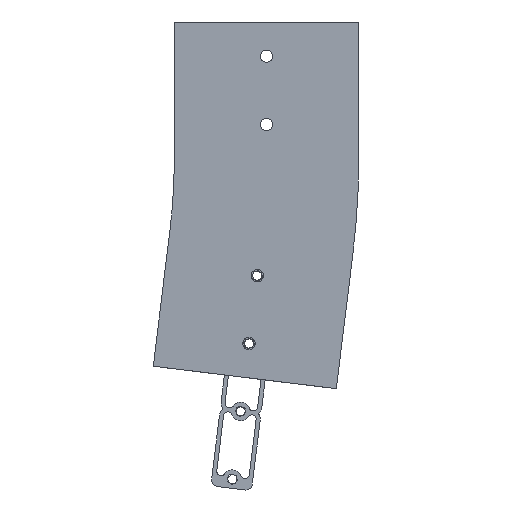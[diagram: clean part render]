
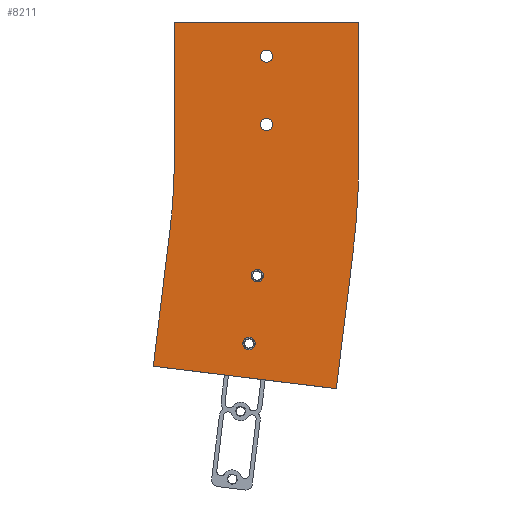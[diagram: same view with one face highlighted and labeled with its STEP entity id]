
A CAD part, left-side view. The second image highlights one B-rep face of the part: STEP entity #8211.
In plain terms, the highlighted planar face has unit normal (-1, 0, 0).
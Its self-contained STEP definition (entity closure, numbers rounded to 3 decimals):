
#187 = FACE_OUTER_BOUND ( 'NONE', #6491, .T. ) ;
#188 = FACE_BOUND ( 'NONE', #6607, .T. ) ;
#189 = FACE_BOUND ( 'NONE', #6599, .T. ) ;
#191 = FACE_BOUND ( 'NONE', #6598, .T. ) ;
#192 = FACE_BOUND ( 'NONE', #6590, .T. ) ;
#1198 = CARTESIAN_POINT ( 'NONE',  ( -59., 82.911, -251.963 ) ) ;
#1281 = CARTESIAN_POINT ( 'NONE',  ( -59., 67.5, 0. ) ) ;
#1320 = CARTESIAN_POINT ( 'NONE',  ( -59., 6.774, -190.248 ) ) ;
#1330 = CARTESIAN_POINT ( 'NONE',  ( -59., 70.724, -152.708 ) ) ;
#1348 = CARTESIAN_POINT ( 'NONE',  ( -59., 0., -20.5 ) ) ;
#1354 = CARTESIAN_POINT ( 'NONE',  ( -59., 0., -29.5 ) ) ;
#1359 = CARTESIAN_POINT ( 'NONE',  ( -59., 0., -79.5 ) ) ;
#1389 = CARTESIAN_POINT ( 'NONE',  ( -59., 67.5, -100. ) ) ;
#1430 = CARTESIAN_POINT ( 'NONE',  ( -59., 0., -70.5 ) ) ;
#1466 = CARTESIAN_POINT ( 'NONE',  ( -59., -51.083, -268.415 ) ) ;
#1491 = CARTESIAN_POINT ( 'NONE',  ( -59., -63.27, -169.161 ) ) ;
#1575 = CARTESIAN_POINT ( 'NONE',  ( -59., 12.867, -230.876 ) ) ;
#1609 = CARTESIAN_POINT ( 'NONE',  ( -59., 12.867, -239.876 ) ) ;
#1662 = CARTESIAN_POINT ( 'NONE',  ( -59., 6.774, -181.248 ) ) ;
#1667 = CARTESIAN_POINT ( 'NONE',  ( -59., -67.5, -100. ) ) ;
#1710 = CARTESIAN_POINT ( 'NONE',  ( -59., -67.5, 0. ) ) ;
#1962 = PLANE ( 'NONE',  #3939 ) ;
#1963 = CARTESIAN_POINT ( 'NONE',  ( -59., -67.5, -100. ) ) ;
#1964 = DIRECTION ( 'NONE',  ( -1., 0., 0. ) ) ;
#1965 = DIRECTION ( 'NONE',  ( 0., 0., 1. ) ) ;
#2558 = EDGE_CURVE ( 'NONE', #7795, #7746, #6772, .T. ) ;
#2574 = EDGE_CURVE ( 'NONE', #7799, #7803, #6766, .T. ) ;
#2613 = EDGE_CURVE ( 'NONE', #7823, #7305, #6760, .T. ) ;
#2623 = EDGE_CURVE ( 'NONE', #7320, #7330, #6754, .T. ) ;
#2675 = EDGE_CURVE ( 'NONE', #7303, #7293, #6724, .T. ) ;
#2680 = EDGE_CURVE ( 'NONE', #7303, #7355, #6719, .T. ) ;
#2683 = EDGE_CURVE ( 'NONE', #7355, #7362, #6717, .T. ) ;
#2696 = EDGE_CURVE ( 'NONE', #7386, #7404, #6707, .T. ) ;
#2704 = EDGE_CURVE ( 'NONE', #7404, #7451, #6703, .T. ) ;
#2817 = EDGE_CURVE ( 'NONE', #7386, #7419, #4910, .T. ) ;
#2823 = EDGE_CURVE ( 'NONE', #7330, #7320, #4907, .T. ) ;
#2829 = EDGE_CURVE ( 'NONE', #7305, #7823, #4905, .T. ) ;
#2836 = EDGE_CURVE ( 'NONE', #7803, #7799, #4903, .T. ) ;
#2838 = EDGE_CURVE ( 'NONE', #7746, #7795, #4901, .T. ) ;
#2840 = EDGE_CURVE ( 'NONE', #7419, #7293, #4902, .T. ) ;
#2843 = EDGE_CURVE ( 'NONE', #7451, #7362, #4899, .T. ) ;
#3600 = AXIS2_PLACEMENT_3D ( 'NONE', #4537, #4536, #4535 ) ;
#3602 = AXIS2_PLACEMENT_3D ( 'NONE', #4524, #4523, #4521 ) ;
#3604 = AXIS2_PLACEMENT_3D ( 'NONE', #4511, #4509, #4508 ) ;
#3606 = AXIS2_PLACEMENT_3D ( 'NONE', #4497, #4496, #4495 ) ;
#3609 = AXIS2_PLACEMENT_3D ( 'NONE', #4444, #4443, #4442 ) ;
#3611 = AXIS2_PLACEMENT_3D ( 'NONE', #4424, #4423, #4421 ) ;
#3618 = AXIS2_PLACEMENT_3D ( 'NONE', #4303, #4302, #4301 ) ;
#3620 = AXIS2_PLACEMENT_3D ( 'NONE', #4296, #4295, #4294 ) ;
#3622 = AXIS2_PLACEMENT_3D ( 'NONE', #4289, #4288, #4287 ) ;
#3623 = AXIS2_PLACEMENT_3D ( 'NONE', #4286, #4285, #4283 ) ;
#3939 = AXIS2_PLACEMENT_3D ( 'NONE', #1963, #1964, #1965 ) ;
#4277 = DIRECTION ( 'NONE',  ( 0., -0.993, -0.122 ) ) ;
#4278 = CARTESIAN_POINT ( 'NONE',  ( -59., -51.083, -268.415 ) ) ;
#4279 = DIRECTION ( 'NONE',  ( 0., -1., 0. ) ) ;
#4280 = CARTESIAN_POINT ( 'NONE',  ( -59., -67.5, 0. ) ) ;
#4283 = DIRECTION ( 'NONE',  ( 0., 0., 1. ) ) ;
#4285 = DIRECTION ( 'NONE',  ( -1., 0., 0. ) ) ;
#4286 = CARTESIAN_POINT ( 'NONE',  ( -59., 0., -75. ) ) ;
#4287 = DIRECTION ( 'NONE',  ( 0., 0., 1. ) ) ;
#4288 = DIRECTION ( 'NONE',  ( -1., 0., 0. ) ) ;
#4289 = CARTESIAN_POINT ( 'NONE',  ( -59., 0., -25. ) ) ;
#4294 = DIRECTION ( 'NONE',  ( 0., 0., 1. ) ) ;
#4295 = DIRECTION ( 'NONE',  ( -1., 0., 0. ) ) ;
#4296 = CARTESIAN_POINT ( 'NONE',  ( -59., 6.774, -185.748 ) ) ;
#4301 = DIRECTION ( 'NONE',  ( 0., 0., 1. ) ) ;
#4302 = DIRECTION ( 'NONE',  ( -1., 0., 0. ) ) ;
#4303 = CARTESIAN_POINT ( 'NONE',  ( -59., 12.867, -235.376 ) ) ;
#4309 = DIRECTION ( 'NONE',  ( 0., 0., 1. ) ) ;
#4310 = CARTESIAN_POINT ( 'NONE',  ( -59., 67.5, -100. ) ) ;
#4414 = DIRECTION ( 'NONE',  ( 0., 0.122, -0.993 ) ) ;
#4415 = CARTESIAN_POINT ( 'NONE',  ( -59., 70.724, -152.708 ) ) ;
#4421 = DIRECTION ( 'NONE',  ( 0., 0., -1. ) ) ;
#4423 = DIRECTION ( 'NONE',  ( 1., 0., 0. ) ) ;
#4424 = CARTESIAN_POINT ( 'NONE',  ( -59., 500., -100. ) ) ;
#4437 = DIRECTION ( 'NONE',  ( 0., 0.122, -0.993 ) ) ;
#4439 = CARTESIAN_POINT ( 'NONE',  ( -59., -63.27, -169.161 ) ) ;
#4442 = DIRECTION ( 'NONE',  ( 0., 0., -1. ) ) ;
#4443 = DIRECTION ( 'NONE',  ( 1., 0., 0. ) ) ;
#4444 = CARTESIAN_POINT ( 'NONE',  ( -59., 500., -100. ) ) ;
#4449 = DIRECTION ( 'NONE',  ( 0., 0., 1. ) ) ;
#4450 = CARTESIAN_POINT ( 'NONE',  ( -59., -67.5, -100. ) ) ;
#4495 = DIRECTION ( 'NONE',  ( 0., 0., 1. ) ) ;
#4496 = DIRECTION ( 'NONE',  ( -1., 0., 0. ) ) ;
#4497 = CARTESIAN_POINT ( 'NONE',  ( -59., 12.867, -235.376 ) ) ;
#4508 = DIRECTION ( 'NONE',  ( 0., 0., 1. ) ) ;
#4509 = DIRECTION ( 'NONE',  ( -1., 0., 0. ) ) ;
#4511 = CARTESIAN_POINT ( 'NONE',  ( -59., 6.774, -185.748 ) ) ;
#4521 = DIRECTION ( 'NONE',  ( 0., 0., 1. ) ) ;
#4523 = DIRECTION ( 'NONE',  ( -1., 0., 0. ) ) ;
#4524 = CARTESIAN_POINT ( 'NONE',  ( -59., 0., -25. ) ) ;
#4535 = DIRECTION ( 'NONE',  ( 0., 0., 1. ) ) ;
#4536 = DIRECTION ( 'NONE',  ( -1., 0., 0. ) ) ;
#4537 = CARTESIAN_POINT ( 'NONE',  ( -59., 0., -75. ) ) ;
#4898 = VECTOR ( 'NONE', #4277, 1000. ) ;
#4899 = LINE ( 'NONE', #4278, #4898 ) ;
#4900 = VECTOR ( 'NONE', #4279, 1000. ) ;
#4901 = CIRCLE ( 'NONE', #3623, 4.5 ) ;
#4902 = LINE ( 'NONE', #4280, #4900 ) ;
#4903 = CIRCLE ( 'NONE', #3622, 4.5 ) ;
#4905 = CIRCLE ( 'NONE', #3620, 4.5 ) ;
#4907 = CIRCLE ( 'NONE', #3618, 4.5 ) ;
#4909 = VECTOR ( 'NONE', #4309, 1000. ) ;
#4910 = LINE ( 'NONE', #4310, #4909 ) ;
#5999 = ORIENTED_EDGE ( 'NONE', *, *, #2838, .F. ) ;
#6000 = ORIENTED_EDGE ( 'NONE', *, *, #2558, .F. ) ;
#6001 = ORIENTED_EDGE ( 'NONE', *, *, #2836, .F. ) ;
#6003 = ORIENTED_EDGE ( 'NONE', *, *, #2574, .F. ) ;
#6004 = ORIENTED_EDGE ( 'NONE', *, *, #2829, .F. ) ;
#6005 = ORIENTED_EDGE ( 'NONE', *, *, #2613, .F. ) ;
#6006 = ORIENTED_EDGE ( 'NONE', *, *, #2823, .F. ) ;
#6007 = ORIENTED_EDGE ( 'NONE', *, *, #2623, .F. ) ;
#6008 = ORIENTED_EDGE ( 'NONE', *, *, #2840, .F. ) ;
#6009 = ORIENTED_EDGE ( 'NONE', *, *, #2817, .F. ) ;
#6010 = ORIENTED_EDGE ( 'NONE', *, *, #2696, .T. ) ;
#6011 = ORIENTED_EDGE ( 'NONE', *, *, #2704, .T. ) ;
#6012 = ORIENTED_EDGE ( 'NONE', *, *, #2843, .T. ) ;
#6013 = ORIENTED_EDGE ( 'NONE', *, *, #2683, .F. ) ;
#6014 = ORIENTED_EDGE ( 'NONE', *, *, #2680, .F. ) ;
#6015 = ORIENTED_EDGE ( 'NONE', *, *, #2675, .T. ) ;
#6491 = EDGE_LOOP ( 'NONE', ( #6008, #6009, #6010, #6011, #6012, #6013, #6014, #6015 ) ) ;
#6590 = EDGE_LOOP ( 'NONE', ( #5999, #6000 ) ) ;
#6598 = EDGE_LOOP ( 'NONE', ( #6001, #6003 ) ) ;
#6599 = EDGE_LOOP ( 'NONE', ( #6004, #6005 ) ) ;
#6607 = EDGE_LOOP ( 'NONE', ( #6006, #6007 ) ) ;
#6702 = VECTOR ( 'NONE', #4414, 1000. ) ;
#6703 = LINE ( 'NONE', #4415, #6702 ) ;
#6707 = CIRCLE ( 'NONE', #3611, 432.5 ) ;
#6716 = VECTOR ( 'NONE', #4437, 1000. ) ;
#6717 = LINE ( 'NONE', #4439, #6716 ) ;
#6719 = CIRCLE ( 'NONE', #3609, 567.5 ) ;
#6723 = VECTOR ( 'NONE', #4449, 1000. ) ;
#6724 = LINE ( 'NONE', #4450, #6723 ) ;
#6754 = CIRCLE ( 'NONE', #3606, 4.5 ) ;
#6760 = CIRCLE ( 'NONE', #3604, 4.5 ) ;
#6766 = CIRCLE ( 'NONE', #3602, 4.5 ) ;
#6772 = CIRCLE ( 'NONE', #3600, 4.5 ) ;
#7293 = VERTEX_POINT ( 'NONE', #1710 ) ;
#7303 = VERTEX_POINT ( 'NONE', #1667 ) ;
#7305 = VERTEX_POINT ( 'NONE', #1662 ) ;
#7320 = VERTEX_POINT ( 'NONE', #1609 ) ;
#7330 = VERTEX_POINT ( 'NONE', #1575 ) ;
#7355 = VERTEX_POINT ( 'NONE', #1491 ) ;
#7362 = VERTEX_POINT ( 'NONE', #1466 ) ;
#7386 = VERTEX_POINT ( 'NONE', #1389 ) ;
#7404 = VERTEX_POINT ( 'NONE', #1330 ) ;
#7419 = VERTEX_POINT ( 'NONE', #1281 ) ;
#7451 = VERTEX_POINT ( 'NONE', #1198 ) ;
#7746 = VERTEX_POINT ( 'NONE', #1430 ) ;
#7795 = VERTEX_POINT ( 'NONE', #1359 ) ;
#7799 = VERTEX_POINT ( 'NONE', #1354 ) ;
#7803 = VERTEX_POINT ( 'NONE', #1348 ) ;
#7823 = VERTEX_POINT ( 'NONE', #1320 ) ;
#8211 = ADVANCED_FACE ( 'NONE', ( #192, #191, #189, #188, #187 ), #1962, .T. ) ;
